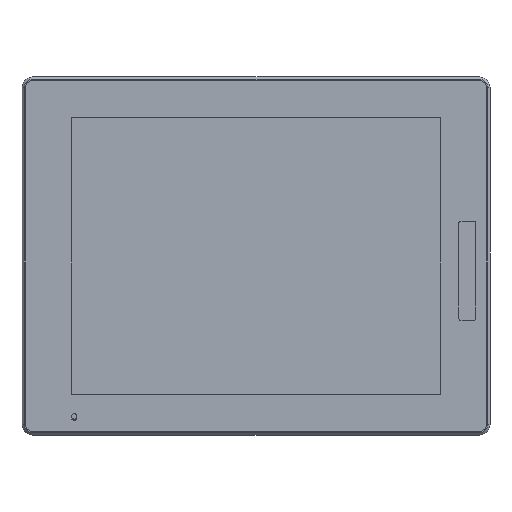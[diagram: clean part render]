
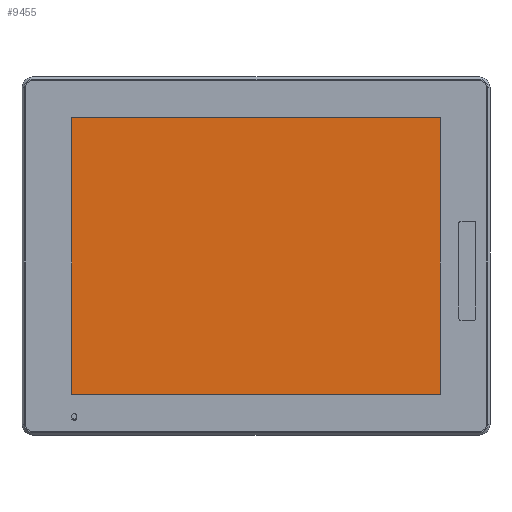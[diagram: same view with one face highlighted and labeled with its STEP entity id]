
A CAD part, top view. The second image highlights one B-rep face of the part: STEP entity #9455.
In plain terms, the highlighted planar face has unit normal (0, 0, 1).
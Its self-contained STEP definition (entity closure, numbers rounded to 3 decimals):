
#1031 = AXIS2_PLACEMENT_3D ( 'NONE', #38848, #14910, #76062 ) ;
#1227 = ORIENTED_EDGE ( 'NONE', *, *, #41854, .T. ) ;
#1361 = AXIS2_PLACEMENT_3D ( 'NONE', #76285, #15130, #51927 ) ;
#1940 = LINE ( 'NONE', #34103, #41254 ) ;
#6443 = CIRCLE ( 'NONE', #18031, 1. ) ;
#7141 = VERTEX_POINT ( 'NONE', #32581 ) ;
#7768 = VERTEX_POINT ( 'NONE', #19617 ) ;
#9033 = EDGE_CURVE ( 'NONE', #21430, #7141, #72607, .T. ) ;
#9204 = VERTEX_POINT ( 'NONE', #61502 ) ;
#9455 = ADVANCED_FACE ( 'NONE', ( #42056 ), #46175, .T. ) ;
#9714 = CARTESIAN_POINT ( 'NONE',  ( 157.5, 27.15, 63.748 ) ) ;
#10661 = CARTESIAN_POINT ( 'NONE',  ( 280.6, 212.85, 63.748 ) ) ;
#10862 = VERTEX_POINT ( 'NONE', #13853 ) ;
#13853 = CARTESIAN_POINT ( 'NONE',  ( 34.4, 213.85, 63.748 ) ) ;
#14910 = DIRECTION ( 'NONE',  ( 0., 0., 1. ) ) ;
#15130 = DIRECTION ( 'NONE',  ( 0., 0., 1. ) ) ;
#15712 = CARTESIAN_POINT ( 'NONE',  ( 157.5, 213.85, 63.748 ) ) ;
#17637 = LINE ( 'NONE', #15712, #50284 ) ;
#17783 = ORIENTED_EDGE ( 'NONE', *, *, #52411, .T. ) ;
#17863 = ORIENTED_EDGE ( 'NONE', *, *, #9033, .T. ) ;
#18031 = AXIS2_PLACEMENT_3D ( 'NONE', #74653, #50826, #50301 ) ;
#19617 = CARTESIAN_POINT ( 'NONE',  ( 33.4, 28.15, 63.748 ) ) ;
#21430 = VERTEX_POINT ( 'NONE', #29084 ) ;
#22740 = DIRECTION ( 'NONE',  ( 0., 0., 1. ) ) ;
#29084 = CARTESIAN_POINT ( 'NONE',  ( 280.6, 27.15, 63.748 ) ) ;
#29437 = AXIS2_PLACEMENT_3D ( 'NONE', #10661, #22740, #53654 ) ;
#32581 = CARTESIAN_POINT ( 'NONE',  ( 281.6, 28.15, 63.748 ) ) ;
#34103 = CARTESIAN_POINT ( 'NONE',  ( 33.4, 120.5, 63.748 ) ) ;
#35892 = CARTESIAN_POINT ( 'NONE',  ( 280.6, 213.85, 63.748 ) ) ;
#37180 = ORIENTED_EDGE ( 'NONE', *, *, #63086, .T. ) ;
#38263 = LINE ( 'NONE', #9714, #39244 ) ;
#38848 = CARTESIAN_POINT ( 'NONE',  ( 34.4, 212.85, 63.748 ) ) ;
#38916 = VERTEX_POINT ( 'NONE', #44454 ) ;
#39244 = VECTOR ( 'NONE', #47024, 1000. ) ;
#39529 = CARTESIAN_POINT ( 'NONE',  ( 281.6, 120.5, 63.748 ) ) ;
#41254 = VECTOR ( 'NONE', #76954, 1000. ) ;
#41483 = CIRCLE ( 'NONE', #1031, 1. ) ;
#41854 = EDGE_CURVE ( 'NONE', #43591, #10862, #17637, .T. ) ;
#42056 = FACE_OUTER_BOUND ( 'NONE', #46128, .T. ) ;
#43591 = VERTEX_POINT ( 'NONE', #35892 ) ;
#44454 = CARTESIAN_POINT ( 'NONE',  ( 281.6, 212.85, 63.748 ) ) ;
#46128 = EDGE_LOOP ( 'NONE', ( #46480, #69619, #37180, #17863, #49217, #17783, #1227, #56895 ) ) ;
#46175 = PLANE ( 'NONE',  #66059 ) ;
#46480 = ORIENTED_EDGE ( 'NONE', *, *, #62154, .T. ) ;
#47024 = DIRECTION ( 'NONE',  ( 1., 0., 0. ) ) ;
#48444 = VECTOR ( 'NONE', #51619, 1000. ) ;
#49217 = ORIENTED_EDGE ( 'NONE', *, *, #79374, .T. ) ;
#50284 = VECTOR ( 'NONE', #58650, 1000. ) ;
#50301 = DIRECTION ( 'NONE',  ( 1., 0., 0. ) ) ;
#50533 = EDGE_CURVE ( 'NONE', #7768, #65029, #6443, .T. ) ;
#50826 = DIRECTION ( 'NONE',  ( 0., 0., 1. ) ) ;
#51619 = DIRECTION ( 'NONE',  ( 0., 1., 0. ) ) ;
#51927 = DIRECTION ( 'NONE',  ( 1., 0., 0. ) ) ;
#52397 = DIRECTION ( 'NONE',  ( 0., 0., 1. ) ) ;
#52411 = EDGE_CURVE ( 'NONE', #38916, #43591, #54573, .T. ) ;
#53654 = DIRECTION ( 'NONE',  ( 1., 0., 0. ) ) ;
#54573 = CIRCLE ( 'NONE', #29437, 1. ) ;
#56895 = ORIENTED_EDGE ( 'NONE', *, *, #59725, .T. ) ;
#58650 = DIRECTION ( 'NONE',  ( -1., 0., 0. ) ) ;
#59725 = EDGE_CURVE ( 'NONE', #10862, #9204, #41483, .T. ) ;
#61502 = CARTESIAN_POINT ( 'NONE',  ( 33.4, 212.85, 63.748 ) ) ;
#62154 = EDGE_CURVE ( 'NONE', #9204, #7768, #1940, .T. ) ;
#63086 = EDGE_CURVE ( 'NONE', #65029, #21430, #38263, .T. ) ;
#63803 = LINE ( 'NONE', #39529, #48444 ) ;
#63891 = DIRECTION ( 'NONE',  ( 1., 0., 0. ) ) ;
#65029 = VERTEX_POINT ( 'NONE', #75065 ) ;
#66059 = AXIS2_PLACEMENT_3D ( 'NONE', #69785, #52397, #63891 ) ;
#69619 = ORIENTED_EDGE ( 'NONE', *, *, #50533, .T. ) ;
#69785 = CARTESIAN_POINT ( 'NONE',  ( 157.5, 120.5, 63.748 ) ) ;
#72607 = CIRCLE ( 'NONE', #1361, 1. ) ;
#74653 = CARTESIAN_POINT ( 'NONE',  ( 34.4, 28.15, 63.748 ) ) ;
#75065 = CARTESIAN_POINT ( 'NONE',  ( 34.4, 27.15, 63.748 ) ) ;
#76062 = DIRECTION ( 'NONE',  ( 1., 0., 0. ) ) ;
#76285 = CARTESIAN_POINT ( 'NONE',  ( 280.6, 28.15, 63.748 ) ) ;
#76954 = DIRECTION ( 'NONE',  ( 0., -1., 0. ) ) ;
#79374 = EDGE_CURVE ( 'NONE', #7141, #38916, #63803, .T. ) ;
